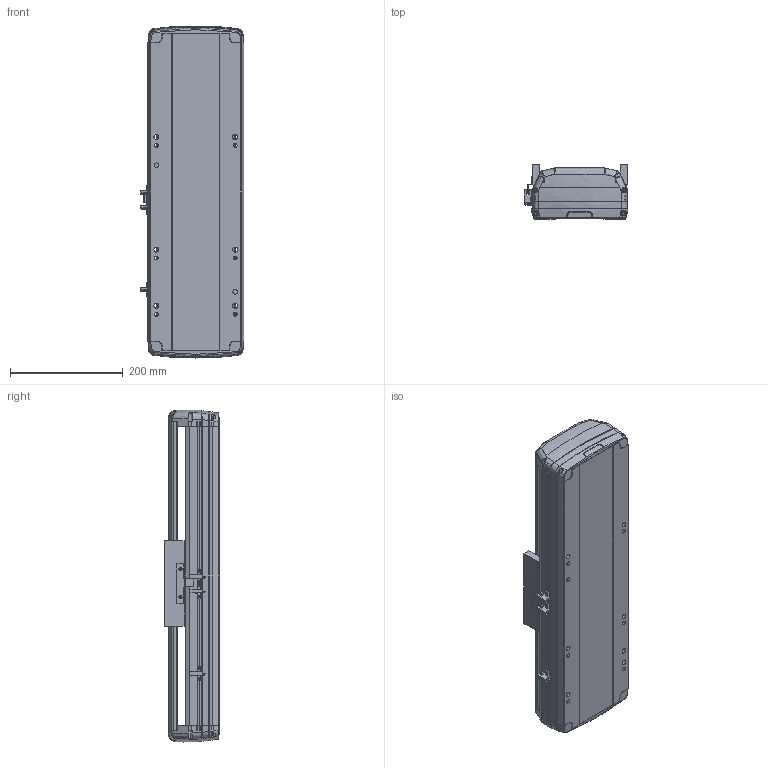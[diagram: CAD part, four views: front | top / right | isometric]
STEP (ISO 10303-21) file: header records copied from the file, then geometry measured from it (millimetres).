
FILE_DESCRIPTION (( 'STEP AP214' ), '1' );
FILE_NAME ('RTH17-XX-150-B-M40B-C4.STEP', '2025-10-24T09:12:48', ( '' ), ( '' ), 'SwSTEP 2.0', 'SolidWorks 2018', '' );
FILE_SCHEMA (( 'AUTOMOTIVE_DESIGN' ));
Length unit declared in the file: millimetre
Products named in the file (7): N_RTH17-GY-001P^RTH17-XX-XX-B-M40B-C4（方程式）; N_RTH17-M-007B上盖^RTH17-XX-XX-B-M40B-C4（方程式）; N_RTH17-E-004丝杆螺母连接座^RTH17-XX-XX-B-M40B-C4（方程式）; N_RTH-L-012 感应片(外置)^RTH17-XX-XX-B-M40B-C4（方程式）; N_RTH17-M-011B底座^RTH17-XX-XX-B-M40B-C4（方程式）; RTH17-XX-150-B-M40B-C4; N_OMRON EE-SX672 換覜ん^RTH17-XX-XX-B-M40B-C4ㄗ源最宒ㄘ
Assembly tree (9 placements, depth 2):
  RTH17-XX-150-B-M40B-C4
    N_RTH17-M-011B底座^RTH17-XX-XX-B-M40B-C4（方程式）
    N_RTH17-M-007B上盖^RTH17-XX-XX-B-M40B-C4（方程式）
    N_OMRON EE-SX672 換覜ん^RTH17-XX-XX-B-M40B-C4ㄗ源最宒ㄘ  x3
    N_RTH-L-012 感应片(外置)^RTH17-XX-XX-B-M40B-C4（方程式）
    N_RTH17-E-004丝杆螺母连接座^RTH17-XX-XX-B-M40B-C4（方程式）
    N_RTH17-GY-001P^RTH17-XX-XX-B-M40B-C4（方程式）  x2
Bounding box: 183.5 x 97 x 590.04 mm (x, y, z)
Volume: 4579297.1 mm3; surface area: 696010.5 mm2
Topology: 7 solids, 11 shells, 1688 faces, 4718 edges, 3062 vertices
Faces by surface type: plane 805, bspline 420, cylinder 417, cone 28, torus 18
Entity records: 38742 total; most frequent: CARTESIAN_POINT 16281, ORIENTED_EDGE 4940, DIRECTION 3886, EDGE_CURVE 2474, VERTEX_POINT 1616, VECTOR 1382, LINE 1382, AXIS2_PLACEMENT_3D 1252
